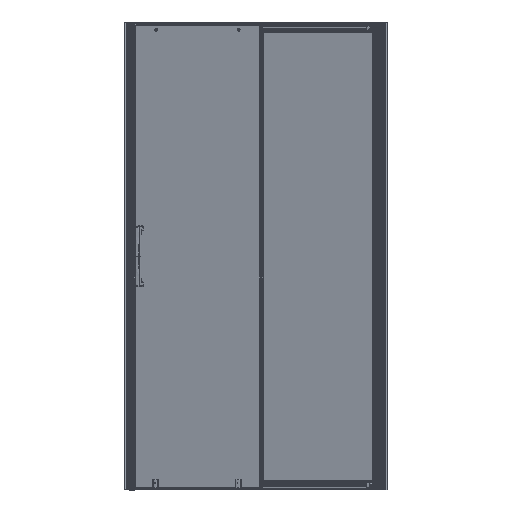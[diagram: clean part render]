
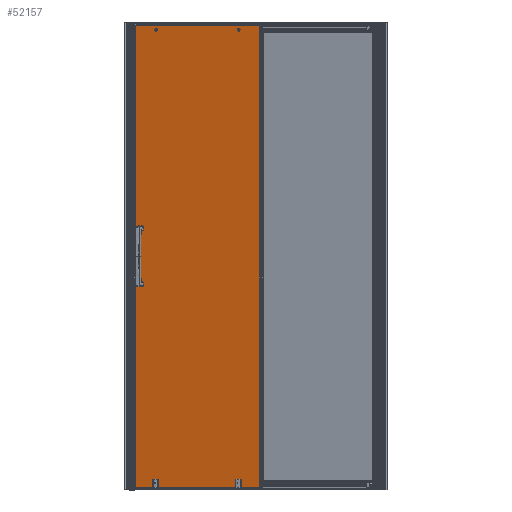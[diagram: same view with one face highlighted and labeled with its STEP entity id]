
A CAD part, left-side view. The second image highlights one B-rep face of the part: STEP entity #52157.
In plain terms, the highlighted planar face has unit normal (-0.943, 0.332, 0) as drawn and (1, 0, 0) by its records, which use the part's own axes.
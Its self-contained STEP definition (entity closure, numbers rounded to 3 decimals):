
#2926=LINE($,#74109,#7599);
#2929=LINE($,#74115,#7602);
#2932=LINE($,#74121,#7605);
#2935=LINE($,#74125,#7608);
#7599=VECTOR($,#59998,575.);
#7602=VECTOR($,#60003,1975.);
#7605=VECTOR($,#60008,575.);
#7608=VECTOR($,#60013,1975.);
#12274=PLANE($,#55258);
#13728=FACE_BOUND($,#17012,.T.);
#13729=FACE_BOUND($,#17013,.T.);
#13730=FACE_BOUND($,#17014,.T.);
#13731=FACE_BOUND($,#17015,.T.);
#13732=FACE_BOUND($,#17016,.T.);
#13733=FACE_BOUND($,#17017,.T.);
#13734=FACE_BOUND($,#17018,.T.);
#17012=EDGE_LOOP($,(#35400));
#17013=EDGE_LOOP($,(#35401));
#17014=EDGE_LOOP($,(#35402));
#17015=EDGE_LOOP($,(#35403));
#17016=EDGE_LOOP($,(#35404));
#17017=EDGE_LOOP($,(#35405));
#17018=EDGE_LOOP($,(#35406,#35407,#35408,#35409));
#20271=CIRCLE($,#55238,5.);
#20273=CIRCLE($,#55241,5.);
#20275=CIRCLE($,#55244,6.);
#20277=CIRCLE($,#55247,6.);
#20279=CIRCLE($,#55250,6.);
#20281=CIRCLE($,#55253,6.);
#22239=VERTEX_POINT($,#74075);
#22241=VERTEX_POINT($,#74080);
#22243=VERTEX_POINT($,#74085);
#22245=VERTEX_POINT($,#74090);
#22247=VERTEX_POINT($,#74095);
#22249=VERTEX_POINT($,#74100);
#22252=VERTEX_POINT($,#74106);
#22253=VERTEX_POINT($,#74108);
#22255=VERTEX_POINT($,#74114);
#22257=VERTEX_POINT($,#74120);
#27440=EDGE_CURVE($,#22239,#22239,#20271,.T.);
#27442=EDGE_CURVE($,#22241,#22241,#20273,.T.);
#27444=EDGE_CURVE($,#22243,#22243,#20275,.T.);
#27446=EDGE_CURVE($,#22245,#22245,#20277,.T.);
#27448=EDGE_CURVE($,#22247,#22247,#20279,.T.);
#27450=EDGE_CURVE($,#22249,#22249,#20281,.T.);
#27453=EDGE_CURVE($,#22253,#22252,#2926,.T.);
#27456=EDGE_CURVE($,#22255,#22253,#2929,.T.);
#27459=EDGE_CURVE($,#22257,#22255,#2932,.T.);
#27462=EDGE_CURVE($,#22252,#22257,#2935,.T.);
#35400=ORIENTED_EDGE($,*,*,#27440,.T.);
#35401=ORIENTED_EDGE($,*,*,#27442,.T.);
#35402=ORIENTED_EDGE($,*,*,#27444,.T.);
#35403=ORIENTED_EDGE($,*,*,#27446,.T.);
#35404=ORIENTED_EDGE($,*,*,#27448,.T.);
#35405=ORIENTED_EDGE($,*,*,#27450,.T.);
#35406=ORIENTED_EDGE($,*,*,#27462,.T.);
#35407=ORIENTED_EDGE($,*,*,#27459,.T.);
#35408=ORIENTED_EDGE($,*,*,#27456,.T.);
#35409=ORIENTED_EDGE($,*,*,#27453,.T.);
#52157=ADVANCED_FACE($,(#13728,#13729,#13730,#13731,#13732,#13733,#13734),
#12274,.T.);
#55238=AXIS2_PLACEMENT_3D($,#74076,#59962,#59963);
#55241=AXIS2_PLACEMENT_3D($,#74081,#59968,#59969);
#55244=AXIS2_PLACEMENT_3D($,#74086,#59974,#59975);
#55247=AXIS2_PLACEMENT_3D($,#74091,#59980,#59981);
#55250=AXIS2_PLACEMENT_3D($,#74096,#59986,#59987);
#55253=AXIS2_PLACEMENT_3D($,#74101,#59992,#59993);
#55258=AXIS2_PLACEMENT_3D($,#74126,#60014,#60015);
#59962=DIRECTION('center_axis',(-1.,0.,0.));
#59963=DIRECTION('ref_axis',(0.,0.,-1.));
#59968=DIRECTION('center_axis',(-1.,0.,0.));
#59969=DIRECTION('ref_axis',(0.,0.,-1.));
#59974=DIRECTION('center_axis',(-1.,0.,0.));
#59975=DIRECTION('ref_axis',(0.,0.,-1.));
#59980=DIRECTION('center_axis',(-1.,0.,0.));
#59981=DIRECTION('ref_axis',(0.,0.,-1.));
#59986=DIRECTION('center_axis',(-1.,0.,0.));
#59987=DIRECTION('ref_axis',(0.,0.,-1.));
#59992=DIRECTION('center_axis',(-1.,0.,0.));
#59993=DIRECTION('ref_axis',(0.,0.,-1.));
#59998=DIRECTION($,(0.,1.,0.));
#60003=DIRECTION($,(0.,0.,-1.));
#60008=DIRECTION($,(0.,-1.,0.));
#60013=DIRECTION($,(0.,0.,1.));
#60014=DIRECTION('center_axis',(1.,0.,0.));
#60015=DIRECTION('ref_axis',(0.,0.,-1.));
#74075=CARTESIAN_POINT('',(6.,-257.5,-125.));
#74076=CARTESIAN_POINT('Origin',(6.,-257.5,-120.));
#74080=CARTESIAN_POINT('',(6.,-257.5,115.));
#74081=CARTESIAN_POINT('Origin',(6.,-257.5,120.));
#74085=CARTESIAN_POINT('',(6.,187.5,-975.5));
#74086=CARTESIAN_POINT('Origin',(6.,187.5,-969.5));
#74090=CARTESIAN_POINT('',(6.,-187.5,963.5));
#74091=CARTESIAN_POINT('Origin',(6.,-187.5,969.5));
#74095=CARTESIAN_POINT('',(6.,187.5,963.5));
#74096=CARTESIAN_POINT('Origin',(6.,187.5,969.5));
#74100=CARTESIAN_POINT('',(6.,-187.5,-975.5));
#74101=CARTESIAN_POINT('Origin',(6.,-187.5,-969.5));
#74106=CARTESIAN_POINT('',(6.,287.5,-987.5));
#74108=CARTESIAN_POINT('',(6.,-287.5,-987.5));
#74109=CARTESIAN_POINT($,(6.,-287.5,-987.5));
#74114=CARTESIAN_POINT('',(6.,-287.5,987.5));
#74115=CARTESIAN_POINT($,(6.,-287.5,987.5));
#74120=CARTESIAN_POINT('',(6.,287.5,987.5));
#74121=CARTESIAN_POINT($,(6.,287.5,987.5));
#74125=CARTESIAN_POINT($,(6.,287.5,-987.5));
#74126=CARTESIAN_POINT('Origin',(6.,143.75,493.75));
